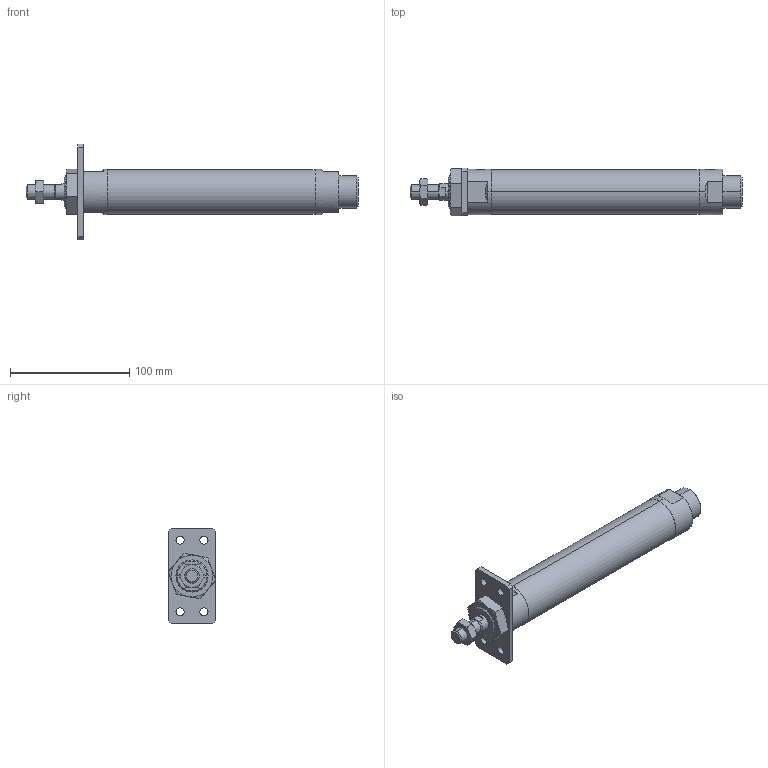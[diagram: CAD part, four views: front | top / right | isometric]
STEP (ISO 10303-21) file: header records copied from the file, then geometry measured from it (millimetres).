
FILE_DESCRIPTION (( 'STEP AP203' ), '1' );
FILE_NAME ('J#2-32-125-A.STEP', '2016-03-08T07:38:11', ( '' ), ( '' ), 'SwSTEP 2.0', 'SolidWorks 2014', '' );
FILE_SCHEMA (( 'CONFIG_CONTROL_DESIGN' ));
Length unit declared in the file: millimetre
Products named in the file (5): J#2-32-125-A; J#2-32-125; J#2-32-A
Assembly tree (4 placements, depth 2):
  J#2-32-125-A
    J#2-32-125
    (unnamed)
    (unnamed)
    J#2-32-A
Bounding box: 278 x 40 x 80 mm (x, y, z)
Volume: 274810 mm3; surface area: 43546.9 mm2
Topology: 4 solids, 4 shells, 114 faces, 264 edges, 161 vertices
Faces by surface type: plane 43, cylinder 32, torus 24, cone 15
Entity records: 4214 total; most frequent: CARTESIAN_POINT 1149, DIRECTION 537, ORIENTED_EDGE 520, EDGE_CURVE 260, AXIS2_PLACEMENT_3D 219, VERTEX_POINT 161, EDGE_LOOP 135, ADVANCED_FACE 114
